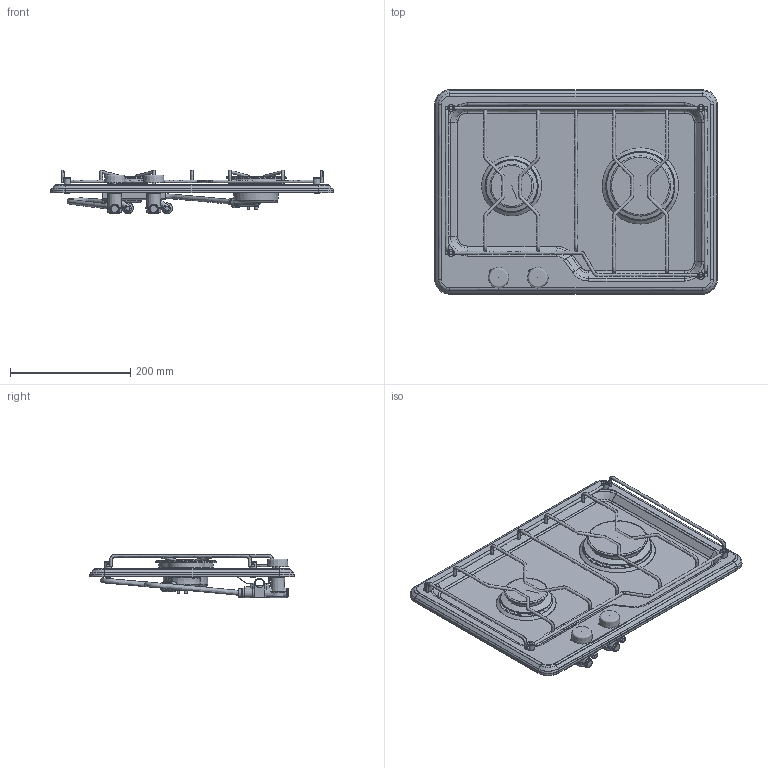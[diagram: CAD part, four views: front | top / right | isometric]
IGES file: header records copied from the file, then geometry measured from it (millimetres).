
Start section:  Alias DesignStudio for Windows version 12.0 IGES version 5.3
Global section: file name: C:\00000LAVORI_IN_CORSO\techimpex\SEAFARER 2\seafarer 2.iges; native system: Alias DesignStudio for Windows V12.0; preprocessor: 12.0; author: admin; organization: Unknown; date: 20080721.144641; units: millimetre
Bounding box: 470 x 340 x 72.28 mm (x, y, z)
Surface area: 583503 mm2 (no closed solid volume)
Topology: 0 solids, 0 shells, 701 faces, 4530 edges, 4268 vertices
Faces by surface type: bspline 701
